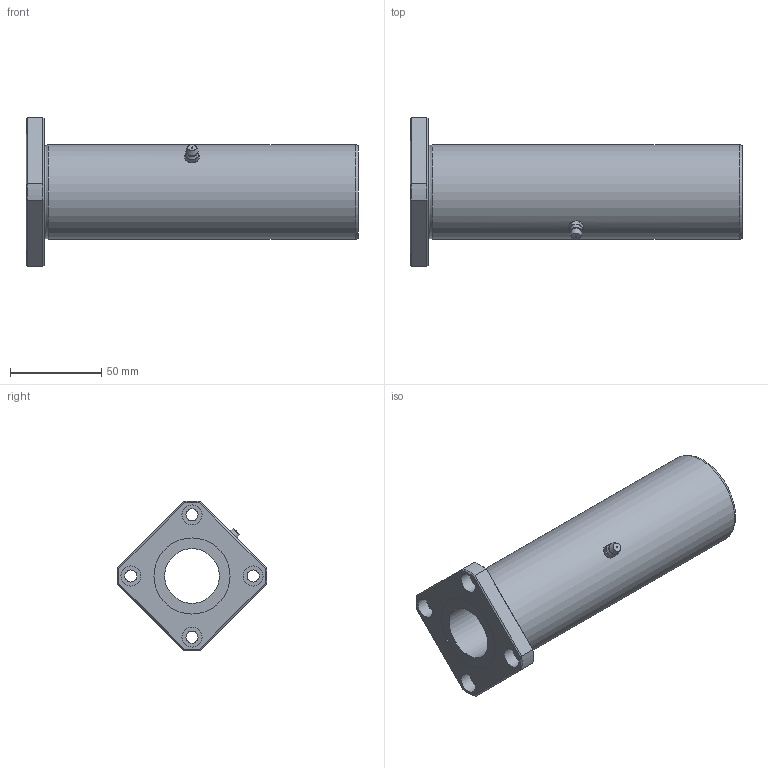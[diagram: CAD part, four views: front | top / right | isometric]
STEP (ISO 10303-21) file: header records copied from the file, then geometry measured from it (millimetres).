
FILE_DESCRIPTION((''),'2;1');
FILE_NAME('D:\製品 (図面)\カタログ用3D\リニアベアリング関連\STEP形式\LFLK\LFLK30.stp','2010-06-04T09:09:31',('Tsuchiya'),(''),'Autodesk Inventor 10','Autodesk Inventor 10','');
FILE_SCHEMA(('AUTOMOTIVE_DESIGN { 1 0 10303 214 1 1 1 1 }'));
Length unit declared in the file: millimetre
Products named in the file (1): LFLK30
Bounding box: 182 x 81.94 x 81.94 mm (x, y, z)
Volume: 273704.3 mm3; surface area: 55175.2 mm2
Topology: 1 solids, 1 shells, 76 faces, 159 edges, 94 vertices
Faces by surface type: plane 31, cone 21, cylinder 18, bspline 3, sphere 2, torus 1
Full cylindrical faces by diameter (mm): 6.6 x4, 11 x4, 30 x1, 41.7 x2, 52 x1
Entity records: 2171 total; most frequent: CARTESIAN_POINT 657, DIRECTION 310, ORIENTED_EDGE 280, EDGE_CURVE 140, AXIS2_PLACEMENT_3D 138, EDGE_LOOP 114, VERTEX_POINT 92, FACE_OUTER_BOUND 76
